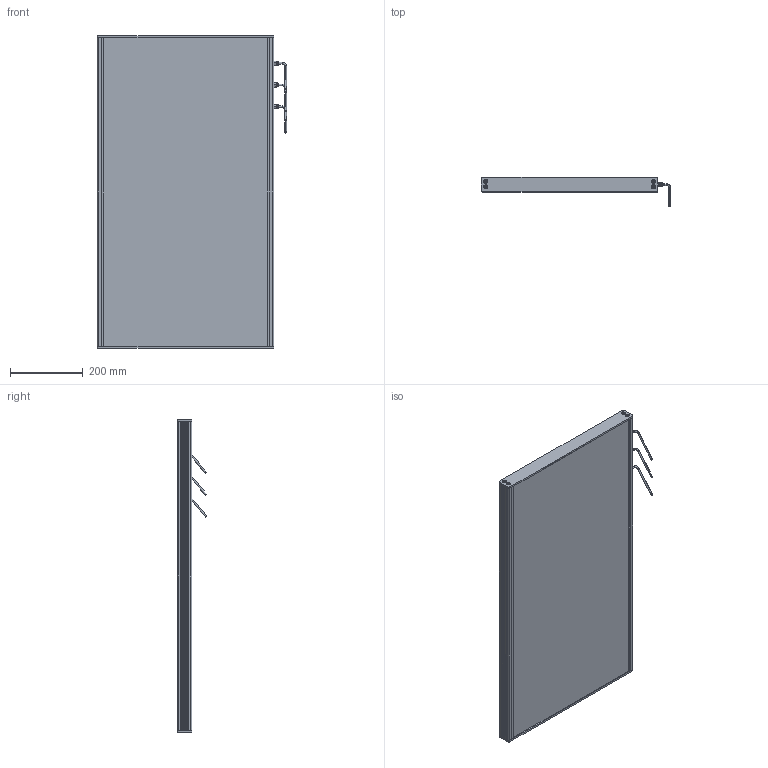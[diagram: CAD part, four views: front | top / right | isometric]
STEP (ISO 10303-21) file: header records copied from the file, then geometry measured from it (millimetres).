
FILE_DESCRIPTION (( 'STEP AP214' ), '1' );
FILE_NAME ('EFFI-BL-450-850T-3M12.STEP', '2021-07-02T10:13:15', ( '' ), ( '' ), 'SwSTEP 2.0', 'SolidWorks 2021', '' );
FILE_SCHEMA (( 'AUTOMOTIVE_DESIGN' ));
Length unit declared in the file: millimetre
Products named in the file (7): profile modif_lg 99.5 mm; cordon_Avec cable; EFFI-BL-450-850T-3M12; 003776; bord fin modif_lg 436.5 mm; Pièce2^EFFI-BL-XXX-YYYT + 3 M12
Assembly tree (16 placements, depth 2):
  EFFI-BL-450-850T-3M12
    bord fin modif_lg 436.5 mm  x2
    profile modif_lg 99.5 mm
    Pièce2^EFFI-BL-XXX-YYYT + 3 M12
    profile modif_lg 99.5 mm
    003776  x8
    cordon_Avec cable  x3
Bounding box: 521.15 x 80.73 x 860 mm (x, y, z)
Volume: 14420004.8 mm3; surface area: 1202102.7 mm2
Topology: 13 solids, 31 shells, 748 faces, 1876 edges, 1201 vertices
Faces by surface type: plane 417, bspline 143, cylinder 136, torus 30, cone 22
Entity records: 16630 total; most frequent: CARTESIAN_POINT 5354, ORIENTED_EDGE 2196, DIRECTION 1926, EDGE_CURVE 1102, LINE 802, VECTOR 802, VERTEX_POINT 724, AXIS2_PLACEMENT_3D 562
